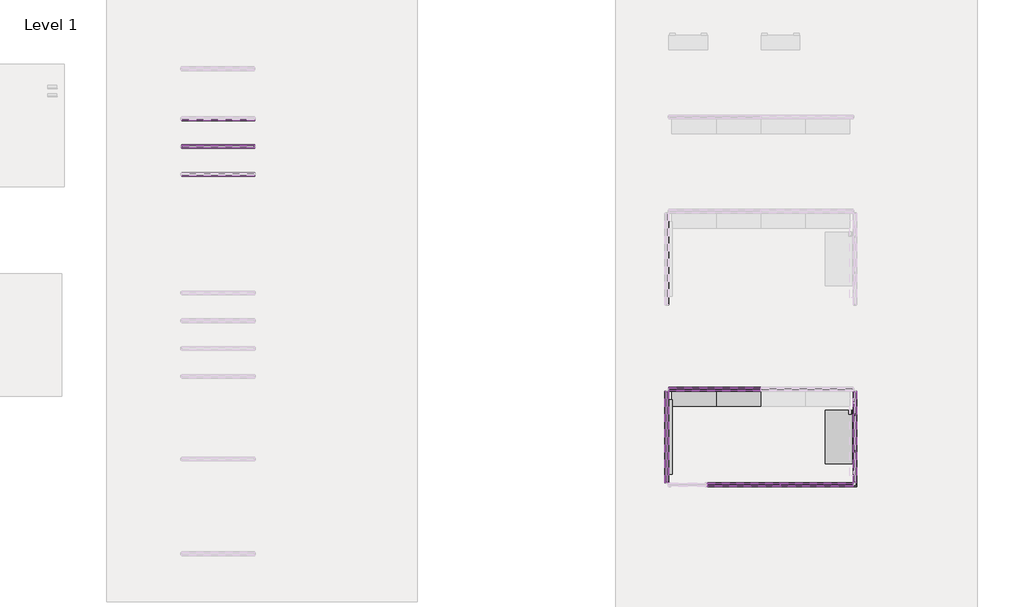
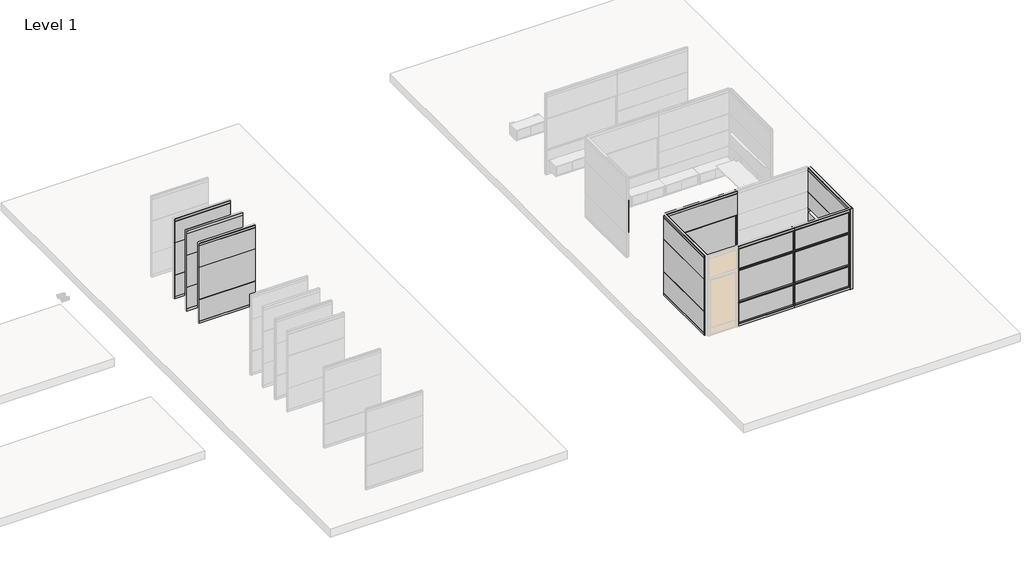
# One storey, part 10 of 13: 102 proxies, 4 furniture elements.
"""IFC4 building model written with IfcOpenShell, lengths in millimetres."""

from ifc_helpers import new_model, si_unit, origin, place, context, project, spatial, transform, mapped, element, save
from components import specialty_equipment_a50fd7a3, fascia_teknion_ceiling_and_base_ffb1_ef166fc6, fascia_teknion_ceiling_and_base_ffb1_7e571673, fascia_teknion_ceiling_and_base_ffb1_18eda79c, fascia_teknion_ceiling_and_base_ffb1_afe21305, fascia_teknion_ceiling_and_base_ffb1_896a0c16, fascia_teknion_ceiling_and_base_ffb1_9837481b, fascia_teknion_ceiling_and_base_ffb1_82e00885, fascia_teknion_ceiling_and_base_ffb1_6d2ad91a, frame_teknion_horizontal_rail_fkk_c7085990, frame_teknion_horizontal_rail_fkk_5c7bcb91, frame_teknion_horizontal_rail_fkk_86cbbdfc, frame_teknion_horizontal_rail_fkk_8a89803d, frame_teknion_horizontal_rail_fkk_60f78dd7, frame_teknion_landscape_vertical_post_b621eeab, glass_fascia_b5f6f7ce, glass_fascia_92d9bb8b, glass_fascia_22911ecb, glass_fascia_a5cf5054, glass_fascia_7f66fccd, glass_fascia_9f460d6d, glass_fascia_9ef64add, level_i_94c8ecd2, level_i_45b542d7, level_i_5a75796b, level_i_b17bdb42, level_i_0fad34de, level_i_c2499e2a, level_i_bottom_886b868d, level_i_top_2ca9f02e, level_ii_4f3a5f4c, level_ii_0c7391c9, level_ii_e725a0b5, level_ii_bottom_2a449907, level_iii_1ffc0a55, level_iii_bffd5232, level_iii_4f8121dc, level_iii_edf6dfbd, level_iii_156669a2, level_iii_9491f67b, whiteboard_56b2b3fd, furniture_abd386d2, aluminum_shelf_4e7f8018, furniture_c8d8c331

model = new_model("IFC4")

# Units and contexts
model_context = context("Model", 3, world=origin())
ifc_project = project(units=[si_unit("LENGTHUNIT", "METRE", prefix="MILLI")], contexts=[model_context])

# Site, building, storey
site = spatial("IfcSite", under=ifc_project)
building = spatial("IfcBuilding", under=site)
storey = spatial("IfcBuildingStorey", under=building, Name="Level 1", Elevation=0.0)

# Proxies
placement = place(None, origin())
specialty_equipment_shape = specialty_equipment_a50fd7a3(model_context)
element("IfcBuildingElementProxy", 1, Name="Connection-Corner-Teknion-Altos-Two_Way_FKCH90 : 90º Connection", ObjectType="Connection-Corner-Teknion-Altos-Two_Way_FKCH90 : 90º Connection", at=placement, inside=storey, context=model_context, shape_type="MappedRepresentation", body=[
    mapped(specialty_equipment_shape, transform((24914.9487093, 5976.6783277, 3.175), x_axis=(0.0, -1.0000000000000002, 0.0), y_axis=(1.0000000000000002, 0.0, 0.0), z_axis=(0.0, 0.0, 1.0))),
])
fascia_teknion_ceiling_and_base_ffb1_shape = fascia_teknion_ceiling_and_base_ffb1_ef166fc6(model_context)
element("IfcBuildingElementProxy", 2, Name="Fascia-Teknion-Ceiling_and_Base : FFB1", ObjectType="Fascia-Teknion-Ceiling_and_Base : FFB1", at=placement, inside=storey, context=model_context, shape_type="MappedRepresentation", body=[
    mapped(fascia_teknion_ceiling_and_base_ffb1_shape, transform((23867.139065, 6007.6663277, 15.875), x_axis=(-1.0, 0.0, 0.0), y_axis=(0.0, -1.0, 0.0), z_axis=(0.0, 0.0, 1.0))),
])
element("IfcBuildingElementProxy", 3, Name="Fascia-Teknion-Ceiling_and_Base : FFB1", ObjectType="Fascia-Teknion-Ceiling_and_Base : FFB1", at=placement, inside=storey, context=model_context, shape_type="MappedRepresentation", body=[
    mapped(fascia_teknion_ceiling_and_base_ffb1_shape, transform((23867.139065, 5926.6403277, 15.875), x_axis=(-1.0, 0.0, 0.0), y_axis=(0.0, -1.0, 0.0), z_axis=(0.0, 0.0, 1.0))),
])
element("IfcBuildingElementProxy", 4, Name="Fascia-Teknion-Ceiling_and_Base : FFB1", ObjectType="Fascia-Teknion-Ceiling_and_Base : FFB1", at=placement, inside=storey, context=model_context, shape_type="MappedRepresentation", body=[
    mapped(fascia_teknion_ceiling_and_base_ffb1_shape, transform((23867.139065, 6007.6663277, 2950.845), x_axis=(-1.0, 0.0, 0.0), y_axis=(0.0, -1.0, 0.0), z_axis=(0.0, 0.0, 1.0))),
])
element("IfcBuildingElementProxy", 5, Name="Fascia-Teknion-Ceiling_and_Base : FFB1", ObjectType="Fascia-Teknion-Ceiling_and_Base : FFB1", at=placement, inside=storey, context=model_context, shape_type="MappedRepresentation", body=[
    mapped(fascia_teknion_ceiling_and_base_ffb1_shape, transform((23867.139065, 5926.6403277, 2950.845), x_axis=(-1.0, 0.0, 0.0), y_axis=(0.0, -1.0, 0.0), z_axis=(0.0, 0.0, 1.0))),
])
fascia_teknion_ceiling_and_base_ffb1_2_shape = fascia_teknion_ceiling_and_base_ffb1_7e571673(model_context)
element("IfcBuildingElementProxy", 6, Name="Fascia-Teknion-Ceiling_and_Base : FFB1", ObjectType="Fascia-Teknion-Ceiling_and_Base : FFB1", at=placement, inside=storey, context=model_context, shape_type="MappedRepresentation", body=[
    mapped(fascia_teknion_ceiling_and_base_ffb1_2_shape, transform((21867.5339869, 6007.6663277, 15.875), x_axis=(-1.0, 0.0, 0.0), y_axis=(0.0, -1.0, 0.0), z_axis=(0.0, 0.0, 1.0))),
])
element("IfcBuildingElementProxy", 7, Name="Fascia-Teknion-Ceiling_and_Base : FFB1", ObjectType="Fascia-Teknion-Ceiling_and_Base : FFB1", at=placement, inside=storey, context=model_context, shape_type="MappedRepresentation", body=[
    mapped(fascia_teknion_ceiling_and_base_ffb1_2_shape, transform((21867.5339869, 5926.6403277, 15.875), x_axis=(-1.0, 0.0, 0.0), y_axis=(0.0, -1.0, 0.0), z_axis=(0.0, 0.0, 1.0))),
])
element("IfcBuildingElementProxy", 8, Name="Fascia-Teknion-Ceiling_and_Base : FFB1", ObjectType="Fascia-Teknion-Ceiling_and_Base : FFB1", at=placement, inside=storey, context=model_context, shape_type="MappedRepresentation", body=[
    mapped(fascia_teknion_ceiling_and_base_ffb1_2_shape, transform((21867.5339869, 6007.6663277, 2950.845), x_axis=(-1.0, 0.0, 0.0), y_axis=(0.0, -1.0, 0.0), z_axis=(0.0, 0.0, 1.0))),
])
element("IfcBuildingElementProxy", 9, Name="Fascia-Teknion-Ceiling_and_Base : FFB1", ObjectType="Fascia-Teknion-Ceiling_and_Base : FFB1", at=placement, inside=storey, context=model_context, shape_type="MappedRepresentation", body=[
    mapped(fascia_teknion_ceiling_and_base_ffb1_2_shape, transform((21867.5339869, 5926.6403277, 2950.845), x_axis=(-1.0, 0.0, 0.0), y_axis=(0.0, -1.0, 0.0), z_axis=(0.0, 0.0, 1.0))),
])
fascia_teknion_ceiling_and_base_ffb1_3_shape = fascia_teknion_ceiling_and_base_ffb1_18eda79c(model_context)
element("IfcBuildingElementProxy", 10, Name="Fascia-Teknion-Ceiling_and_Base : FFB1", ObjectType="Fascia-Teknion-Ceiling_and_Base : FFB1", at=placement, inside=storey, context=model_context, shape_type="MappedRepresentation", body=[
    mapped(fascia_teknion_ceiling_and_base_ffb1_3_shape, transform((7469.8447863, 15970.4806297, 15.875), x_axis=(1.0, 0.0, 0.0), y_axis=(0.0, 1.0, 0.0), z_axis=(0.0, 0.0, 1.0))),
])
element("IfcBuildingElementProxy", 11, Name="Fascia-Teknion-Ceiling_and_Base : FFB1", ObjectType="Fascia-Teknion-Ceiling_and_Base : FFB1", at=placement, inside=storey, context=model_context, shape_type="MappedRepresentation", body=[
    mapped(fascia_teknion_ceiling_and_base_ffb1_3_shape, transform((7469.8447863, 15208.4806297, 15.875), x_axis=(1.0, 0.0, 0.0), y_axis=(0.0, 1.0, 0.0), z_axis=(0.0, 0.0, 1.0))),
])
element("IfcBuildingElementProxy", 12, Name="Fascia-Teknion-Ceiling_and_Base : FFB1", ObjectType="Fascia-Teknion-Ceiling_and_Base : FFB1", at=placement, inside=storey, context=model_context, shape_type="MappedRepresentation", body=[
    mapped(fascia_teknion_ceiling_and_base_ffb1_3_shape, transform((7469.8447863, 14446.4806297, 15.875), x_axis=(1.0, 0.0, 0.0), y_axis=(0.0, 1.0, 0.0), z_axis=(0.0, 0.0, 1.0))),
])
fascia_teknion_ceiling_and_base_ffb1_4_shape = fascia_teknion_ceiling_and_base_ffb1_afe21305(model_context)
element("IfcBuildingElementProxy", 13, Name="Fascia-Teknion-Ceiling_and_Base : FFB1", ObjectType="Fascia-Teknion-Ceiling_and_Base : FFB1", at=placement, inside=storey, context=model_context, shape_type="MappedRepresentation", body=[
    mapped(fascia_teknion_ceiling_and_base_ffb1_4_shape, transform((7469.8447863, 15270.4566297, 15.875), x_axis=(1.0, 0.0, 0.0), y_axis=(0.0, 1.0, 0.0), z_axis=(0.0, 0.0, 1.0))),
])
element("IfcBuildingElementProxy", 14, Name="Fascia-Teknion-Ceiling_and_Base : FFB1", ObjectType="Fascia-Teknion-Ceiling_and_Base : FFB1", at=placement, inside=storey, context=model_context, shape_type="MappedRepresentation", body=[
    mapped(fascia_teknion_ceiling_and_base_ffb1_4_shape, transform((7469.8447863, 14508.4566297, 15.875), x_axis=(1.0, 0.0, 0.0), y_axis=(0.0, 1.0, 0.0), z_axis=(0.0, 0.0, 1.0))),
])
fascia_teknion_ceiling_and_base_ffb1_5_shape = fascia_teknion_ceiling_and_base_ffb1_896a0c16(model_context)
element("IfcBuildingElementProxy", 15, Name="Fascia-Teknion-Ceiling_and_Base : FFB1", ObjectType="Fascia-Teknion-Ceiling_and_Base : FFB1", at=placement, inside=storey, context=model_context, shape_type="MappedRepresentation", body=[
    mapped(fascia_teknion_ceiling_and_base_ffb1_5_shape, transform((21074.4289087, 8622.6866412, 15.875), x_axis=(1.0, 0.0, 0.0), y_axis=(0.0, 1.0, 0.0), z_axis=(0.0, 0.0, 1.0))),
])
fascia_teknion_ceiling_and_base_ffb1_6_shape = fascia_teknion_ceiling_and_base_ffb1_9837481b(model_context)
element("IfcBuildingElementProxy", 16, Name="Fascia-Teknion-Ceiling_and_Base : FFB1", ObjectType="Fascia-Teknion-Ceiling_and_Base : FFB1", at=placement, inside=storey, context=model_context, shape_type="MappedRepresentation", body=[
    mapped(fascia_teknion_ceiling_and_base_ffb1_6_shape, transform((21074.4289087, 8560.7106412, 15.875), x_axis=(1.0, 0.0, 0.0), y_axis=(0.0, 1.0, 0.0), z_axis=(0.0, 0.0, 1.0))),
])
fascia_teknion_ceiling_and_base_ffb1_7_shape = fascia_teknion_ceiling_and_base_ffb1_82e00885(model_context)
element("IfcBuildingElementProxy", 17, Name="Fascia-Teknion-Ceiling_and_Base : FFB1", ObjectType="Fascia-Teknion-Ceiling_and_Base : FFB1", at=placement, inside=storey, context=model_context, shape_type="MappedRepresentation", body=[
    mapped(fascia_teknion_ceiling_and_base_ffb1_7_shape, transform((19728.9373827, 7284.1986407, 15.875), x_axis=(0.0, 1.0, 0.0), y_axis=(-1.0, 0.0, 0.0), z_axis=(0.0, 0.0, 1.0))),
])
element("IfcBuildingElementProxy", 18, Name="Fascia-Teknion-Ceiling_and_Base : FFB1", ObjectType="Fascia-Teknion-Ceiling_and_Base : FFB1", at=placement, inside=storey, context=model_context, shape_type="MappedRepresentation", body=[
    mapped(fascia_teknion_ceiling_and_base_ffb1_7_shape, transform((24945.930591, 7284.1986407, 15.875), x_axis=(0.0, -1.0, 0.0), y_axis=(1.0, 0.0, 0.0), z_axis=(0.0, 0.0, 1.0))),
])
fascia_teknion_ceiling_and_base_ffb1_8_shape = fascia_teknion_ceiling_and_base_ffb1_6d2ad91a(model_context)
element("IfcBuildingElementProxy", 19, Name="Fascia-Teknion-Ceiling_and_Base : FFB1", ObjectType="Fascia-Teknion-Ceiling_and_Base : FFB1", at=placement, inside=storey, context=model_context, shape_type="MappedRepresentation", body=[
    mapped(fascia_teknion_ceiling_and_base_ffb1_8_shape, transform((24883.954591, 7284.1986407, 15.875), x_axis=(0.0, -1.0, 0.0), y_axis=(1.0, 0.0, 0.0), z_axis=(0.0, 0.0, 1.0))),
])
element("IfcBuildingElementProxy", 20, Name="Fascia-Teknion-Ceiling_and_Base : FFB1", ObjectType="Fascia-Teknion-Ceiling_and_Base : FFB1", at=placement, inside=storey, context=model_context, shape_type="MappedRepresentation", body=[
    mapped(fascia_teknion_ceiling_and_base_ffb1_8_shape, transform((19790.9133827, 7284.1986407, 15.875), x_axis=(0.0, 1.0, 0.0), y_axis=(-1.0, 0.0, 0.0), z_axis=(0.0, 0.0, 1.0))),
])
element("IfcBuildingElementProxy", 21, Name="Fascia-Teknion-Ceiling_and_Base : FFC", ObjectType="Fascia-Teknion-Ceiling_and_Base : FFC", at=placement, inside=storey, context=model_context, shape_type="MappedRepresentation", body=[
    mapped(fascia_teknion_ceiling_and_base_ffb1_4_shape, transform((7469.8447863, 15270.4566297, 2950.845), x_axis=(1.0, 0.0, 0.0), y_axis=(0.0, 1.0, 0.0), z_axis=(0.0, 0.0, 1.0))),
])
element("IfcBuildingElementProxy", 22, Name="Fascia-Teknion-Ceiling_and_Base : FFC", ObjectType="Fascia-Teknion-Ceiling_and_Base : FFC", at=placement, inside=storey, context=model_context, shape_type="MappedRepresentation", body=[
    mapped(fascia_teknion_ceiling_and_base_ffb1_3_shape, transform((7469.8447863, 15970.4806297, 2950.845), x_axis=(1.0, 0.0, 0.0), y_axis=(0.0, 1.0, 0.0), z_axis=(0.0, 0.0, 1.0))),
])
element("IfcBuildingElementProxy", 23, Name="Fascia-Teknion-Ceiling_and_Base : FFC", ObjectType="Fascia-Teknion-Ceiling_and_Base : FFC", at=placement, inside=storey, context=model_context, shape_type="MappedRepresentation", body=[
    mapped(fascia_teknion_ceiling_and_base_ffb1_3_shape, transform((7469.8447863, 15208.4806297, 2950.845), x_axis=(1.0, 0.0, 0.0), y_axis=(0.0, 1.0, 0.0), z_axis=(0.0, 0.0, 1.0))),
])
element("IfcBuildingElementProxy", 24, Name="Fascia-Teknion-Ceiling_and_Base : FFC", ObjectType="Fascia-Teknion-Ceiling_and_Base : FFC", at=placement, inside=storey, context=model_context, shape_type="MappedRepresentation", body=[
    mapped(fascia_teknion_ceiling_and_base_ffb1_3_shape, transform((7469.8447863, 14446.4806297, 2950.845), x_axis=(1.0, 0.0, 0.0), y_axis=(0.0, 1.0, 0.0), z_axis=(0.0, 0.0, 1.0))),
])
element("IfcBuildingElementProxy", 25, Name="Fascia-Teknion-Ceiling_and_Base : FFC", ObjectType="Fascia-Teknion-Ceiling_and_Base : FFC", at=placement, inside=storey, context=model_context, shape_type="MappedRepresentation", body=[
    mapped(fascia_teknion_ceiling_and_base_ffb1_5_shape, transform((21074.4289087, 8622.6866412, 2950.845), x_axis=(1.0, 0.0, 0.0), y_axis=(0.0, 1.0, 0.0), z_axis=(0.0, 0.0, 1.0))),
])
element("IfcBuildingElementProxy", 26, Name="Fascia-Teknion-Ceiling_and_Base : FFC", ObjectType="Fascia-Teknion-Ceiling_and_Base : FFC", at=placement, inside=storey, context=model_context, shape_type="MappedRepresentation", body=[
    mapped(fascia_teknion_ceiling_and_base_ffb1_6_shape, transform((21074.4289087, 8560.7106412, 2950.845), x_axis=(1.0, 0.0, 0.0), y_axis=(0.0, 1.0, 0.0), z_axis=(0.0, 0.0, 1.0))),
])
element("IfcBuildingElementProxy", 27, Name="Fascia-Teknion-Ceiling_and_Base : FFC", ObjectType="Fascia-Teknion-Ceiling_and_Base : FFC", at=placement, inside=storey, context=model_context, shape_type="MappedRepresentation", body=[
    mapped(fascia_teknion_ceiling_and_base_ffb1_7_shape, transform((19728.9373827, 7284.1986407, 2950.845), x_axis=(0.0, 1.0, 0.0), y_axis=(-1.0, 0.0, 0.0), z_axis=(0.0, 0.0, 1.0))),
])
element("IfcBuildingElementProxy", 28, Name="Fascia-Teknion-Ceiling_and_Base : FFC", ObjectType="Fascia-Teknion-Ceiling_and_Base : FFC", at=placement, inside=storey, context=model_context, shape_type="MappedRepresentation", body=[
    mapped(fascia_teknion_ceiling_and_base_ffb1_7_shape, transform((24945.930591, 7284.1986407, 2950.845), x_axis=(0.0, -1.0, 0.0), y_axis=(1.0, 0.0, 0.0), z_axis=(0.0, 0.0, 1.0))),
])
element("IfcBuildingElementProxy", 29, Name="Fascia-Teknion-Ceiling_and_Base : FFC", ObjectType="Fascia-Teknion-Ceiling_and_Base : FFC", at=placement, inside=storey, context=model_context, shape_type="MappedRepresentation", body=[
    mapped(fascia_teknion_ceiling_and_base_ffb1_8_shape, transform((19790.9133827, 7284.1986407, 2950.845), x_axis=(0.0, 1.0, 0.0), y_axis=(-1.0, 0.0, 0.0), z_axis=(0.0, 0.0, 1.0))),
])
element("IfcBuildingElementProxy", 30, Name="Fascia-Teknion-Ceiling_and_Base : FFC", ObjectType="Fascia-Teknion-Ceiling_and_Base : FFC", at=placement, inside=storey, context=model_context, shape_type="MappedRepresentation", body=[
    mapped(fascia_teknion_ceiling_and_base_ffb1_8_shape, transform((24883.954591, 7284.1986407, 2950.845), x_axis=(0.0, -1.0, 0.0), y_axis=(1.0, 0.0, 0.0), z_axis=(0.0, 0.0, 1.0))),
])
frame_teknion_horizontal_rail_fkk_shape = frame_teknion_horizontal_rail_fkk_c7085990(model_context)
element("IfcBuildingElementProxy", 31, Name="Frame-Teknion-Horizontal_Rail : FKK", ObjectType="Frame-Teknion-Horizontal_Rail : FKK", at=placement, inside=storey, context=model_context, shape_type="MappedRepresentation", body=[
    mapped(frame_teknion_horizontal_rail_fkk_shape, transform((23867.139065, 5976.6783277, 100.4514438), x_axis=(-1.0, 0.0, 0.0), y_axis=(0.0, -1.0, 0.0), z_axis=(0.0, 0.0, 1.0))),
])
element("IfcBuildingElementProxy", 32, Name="Frame-Teknion-Horizontal_Rail : FKK", ObjectType="Frame-Teknion-Horizontal_Rail : FKK", at=placement, inside=storey, context=model_context, shape_type="MappedRepresentation", body=[
    mapped(frame_teknion_horizontal_rail_fkk_shape, transform((23867.139065, 5976.6783277, 2947.5374437), x_axis=(-1.0, 0.0, 0.0), y_axis=(0.0, -1.0, 0.0), z_axis=(0.0, 0.0, 1.0))),
])
frame_teknion_horizontal_rail_fkk_2_shape = frame_teknion_horizontal_rail_fkk_5c7bcb91(model_context)
element("IfcBuildingElementProxy", 33, Name="Frame-Teknion-Horizontal_Rail : FKK", ObjectType="Frame-Teknion-Horizontal_Rail : FKK", at=placement, inside=storey, context=model_context, shape_type="MappedRepresentation", body=[
    mapped(frame_teknion_horizontal_rail_fkk_2_shape, transform((21867.5339869, 5976.6783277, 100.4514438), x_axis=(-1.0, 0.0, 0.0), y_axis=(0.0, -1.0, 0.0), z_axis=(0.0, 0.0, 1.0))),
])
element("IfcBuildingElementProxy", 34, Name="Frame-Teknion-Horizontal_Rail : FKK", ObjectType="Frame-Teknion-Horizontal_Rail : FKK", at=placement, inside=storey, context=model_context, shape_type="MappedRepresentation", body=[
    mapped(frame_teknion_horizontal_rail_fkk_2_shape, transform((21867.5339869, 5976.6783277, 2947.5374437), x_axis=(-1.0, 0.0, 0.0), y_axis=(0.0, -1.0, 0.0), z_axis=(0.0, 0.0, 1.0))),
])
frame_teknion_horizontal_rail_fkk_3_shape = frame_teknion_horizontal_rail_fkk_86cbbdfc(model_context)
element("IfcBuildingElementProxy", 35, Name="Frame-Teknion-Horizontal_Rail : FKK", ObjectType="Frame-Teknion-Horizontal_Rail : FKK", at=placement, inside=storey, context=model_context, shape_type="MappedRepresentation", body=[
    mapped(frame_teknion_horizontal_rail_fkk_3_shape, transform((7469.8447863, 15239.4686297, 100.4514438), x_axis=(1.0, 0.0, 0.0), y_axis=(0.0, 1.0, 0.0), z_axis=(0.0, 0.0, 1.0))),
])
element("IfcBuildingElementProxy", 36, Name="Frame-Teknion-Horizontal_Rail : FKK", ObjectType="Frame-Teknion-Horizontal_Rail : FKK", at=placement, inside=storey, context=model_context, shape_type="MappedRepresentation", body=[
    mapped(frame_teknion_horizontal_rail_fkk_3_shape, transform((7469.8447863, 15239.4686297, 2947.5374437), x_axis=(1.0, 0.0, 0.0), y_axis=(0.0, 1.0, 0.0), z_axis=(0.0, 0.0, 1.0))),
])
frame_teknion_horizontal_rail_fkk_4_shape = frame_teknion_horizontal_rail_fkk_8a89803d(model_context)
element("IfcBuildingElementProxy", 37, Name="Frame-Teknion-Horizontal_Rail : FKK", ObjectType="Frame-Teknion-Horizontal_Rail : FKK", at=placement, inside=storey, context=model_context, shape_type="MappedRepresentation", body=[
    mapped(frame_teknion_horizontal_rail_fkk_4_shape, transform((21074.4289087, 8591.6986412, 100.4514438), x_axis=(1.0, 0.0, 0.0), y_axis=(0.0, 1.0, 0.0), z_axis=(0.0, 0.0, 1.0))),
])
element("IfcBuildingElementProxy", 38, Name="Frame-Teknion-Horizontal_Rail : FKK", ObjectType="Frame-Teknion-Horizontal_Rail : FKK", at=placement, inside=storey, context=model_context, shape_type="MappedRepresentation", body=[
    mapped(frame_teknion_horizontal_rail_fkk_4_shape, transform((21074.4289087, 8591.6986412, 2947.5374437), x_axis=(1.0, 0.0, 0.0), y_axis=(0.0, 1.0, 0.0), z_axis=(0.0, 0.0, 1.0))),
])
frame_teknion_horizontal_rail_fkk_5_shape = frame_teknion_horizontal_rail_fkk_60f78dd7(model_context)
element("IfcBuildingElementProxy", 39, Name="Frame-Teknion-Horizontal_Rail : FKK", ObjectType="Frame-Teknion-Horizontal_Rail : FKK", at=placement, inside=storey, context=model_context, shape_type="MappedRepresentation", body=[
    mapped(frame_teknion_horizontal_rail_fkk_5_shape, transform((19759.9253827, 7284.1986407, 100.4514438), x_axis=(0.0, 1.0, 0.0), y_axis=(-1.0, 0.0, 0.0), z_axis=(0.0, 0.0, 1.0))),
])
element("IfcBuildingElementProxy", 40, Name="Frame-Teknion-Horizontal_Rail : FKK", ObjectType="Frame-Teknion-Horizontal_Rail : FKK", at=placement, inside=storey, context=model_context, shape_type="MappedRepresentation", body=[
    mapped(frame_teknion_horizontal_rail_fkk_5_shape, transform((19759.9253827, 7284.1986407, 2947.5374437), x_axis=(0.0, 1.0, 0.0), y_axis=(-1.0, 0.0, 0.0), z_axis=(0.0, 0.0, 1.0))),
])
element("IfcBuildingElementProxy", 41, Name="Frame-Teknion-Horizontal_Rail : FKK", ObjectType="Frame-Teknion-Horizontal_Rail : FKK", at=placement, inside=storey, context=model_context, shape_type="MappedRepresentation", body=[
    mapped(frame_teknion_horizontal_rail_fkk_5_shape, transform((24914.942591, 7284.1986407, 100.4514438), x_axis=(0.0, -1.0, 0.0), y_axis=(1.0, 0.0, 0.0), z_axis=(0.0, 0.0, 1.0))),
])
element("IfcBuildingElementProxy", 42, Name="Frame-Teknion-Horizontal_Rail : FKK", ObjectType="Frame-Teknion-Horizontal_Rail : FKK", at=placement, inside=storey, context=model_context, shape_type="MappedRepresentation", body=[
    mapped(frame_teknion_horizontal_rail_fkk_5_shape, transform((24914.942591, 7284.1986407, 2947.5374437), x_axis=(0.0, -1.0, 0.0), y_axis=(1.0, 0.0, 0.0), z_axis=(0.0, 0.0, 1.0))),
])
element("IfcBuildingElementProxy", 43, Name="Frame-Teknion-Landscape_Horizontal_Rail : FLKH", ObjectType="Frame-Teknion-Landscape_Horizontal_Rail : FLKH", at=placement, inside=storey, context=model_context, shape_type="MappedRepresentation", body=[
    mapped(frame_teknion_horizontal_rail_fkk_shape, transform((23867.139065, 5976.6783277, 917.575), x_axis=(-1.0, 0.0, 0.0), y_axis=(0.0, -1.0, 0.0), z_axis=(0.0, 0.0, 1.0))),
])
element("IfcBuildingElementProxy", 44, Name="Frame-Teknion-Landscape_Horizontal_Rail : FLKH", ObjectType="Frame-Teknion-Landscape_Horizontal_Rail : FLKH", at=placement, inside=storey, context=model_context, shape_type="MappedRepresentation", body=[
    mapped(frame_teknion_horizontal_rail_fkk_shape, transform((23867.139065, 5976.6783277, 2136.775), x_axis=(-1.0, 0.0, 0.0), y_axis=(0.0, -1.0, 0.0), z_axis=(0.0, 0.0, 1.0))),
])
element("IfcBuildingElementProxy", 45, Name="Frame-Teknion-Landscape_Horizontal_Rail : FLKH", ObjectType="Frame-Teknion-Landscape_Horizontal_Rail : FLKH", at=placement, inside=storey, context=model_context, shape_type="MappedRepresentation", body=[
    mapped(frame_teknion_horizontal_rail_fkk_2_shape, transform((21867.5339869, 5976.6783277, 917.575), x_axis=(-1.0, 0.0, 0.0), y_axis=(0.0, -1.0, 0.0), z_axis=(0.0, 0.0, 1.0))),
])
element("IfcBuildingElementProxy", 46, Name="Frame-Teknion-Landscape_Horizontal_Rail : FLKH", ObjectType="Frame-Teknion-Landscape_Horizontal_Rail : FLKH", at=placement, inside=storey, context=model_context, shape_type="MappedRepresentation", body=[
    mapped(frame_teknion_horizontal_rail_fkk_2_shape, transform((21867.5339869, 5976.6783277, 2136.775), x_axis=(-1.0, 0.0, 0.0), y_axis=(0.0, -1.0, 0.0), z_axis=(0.0, 0.0, 1.0))),
])
element("IfcBuildingElementProxy", 47, Name="Frame-Teknion-Landscape_Horizontal_Rail : FLKH", ObjectType="Frame-Teknion-Landscape_Horizontal_Rail : FLKH", at=placement, inside=storey, context=model_context, shape_type="MappedRepresentation", body=[
    mapped(frame_teknion_horizontal_rail_fkk_3_shape, transform((7469.8447863, 15239.4686297, 917.575), x_axis=(1.0, 0.0, 0.0), y_axis=(0.0, 1.0, 0.0), z_axis=(0.0, 0.0, 1.0))),
])
element("IfcBuildingElementProxy", 48, Name="Frame-Teknion-Landscape_Horizontal_Rail : FLKH", ObjectType="Frame-Teknion-Landscape_Horizontal_Rail : FLKH", at=placement, inside=storey, context=model_context, shape_type="MappedRepresentation", body=[
    mapped(frame_teknion_horizontal_rail_fkk_3_shape, transform((7469.8447863, 15239.4686297, 2136.775), x_axis=(1.0, 0.0, 0.0), y_axis=(0.0, 1.0, 0.0), z_axis=(0.0, 0.0, 1.0))),
])
element("IfcBuildingElementProxy", 49, Name="Frame-Teknion-Landscape_Horizontal_Rail : FLKH", ObjectType="Frame-Teknion-Landscape_Horizontal_Rail : FLKH", at=placement, inside=storey, context=model_context, shape_type="MappedRepresentation", body=[
    mapped(frame_teknion_horizontal_rail_fkk_4_shape, transform((21074.4289087, 8591.6986412, 917.575), x_axis=(1.0, 0.0, 0.0), y_axis=(0.0, 1.0, 0.0), z_axis=(0.0, 0.0, 1.0))),
])
element("IfcBuildingElementProxy", 50, Name="Frame-Teknion-Landscape_Horizontal_Rail : FLKH", ObjectType="Frame-Teknion-Landscape_Horizontal_Rail : FLKH", at=placement, inside=storey, context=model_context, shape_type="MappedRepresentation", body=[
    mapped(frame_teknion_horizontal_rail_fkk_4_shape, transform((21074.4289087, 8591.6986412, 2136.775), x_axis=(1.0, 0.0, 0.0), y_axis=(0.0, 1.0, 0.0), z_axis=(0.0, 0.0, 1.0))),
])
element("IfcBuildingElementProxy", 51, Name="Frame-Teknion-Landscape_Horizontal_Rail : FLKH", ObjectType="Frame-Teknion-Landscape_Horizontal_Rail : FLKH", at=placement, inside=storey, context=model_context, shape_type="MappedRepresentation", body=[
    mapped(frame_teknion_horizontal_rail_fkk_4_shape, transform((23600.439065, 8591.6986412, 917.575), x_axis=(1.0, 0.0, 0.0), y_axis=(0.0, 1.0, 0.0), z_axis=(0.0, 0.0, 1.0))),
])
element("IfcBuildingElementProxy", 52, Name="Frame-Teknion-Landscape_Horizontal_Rail : FLKH", ObjectType="Frame-Teknion-Landscape_Horizontal_Rail : FLKH", at=placement, inside=storey, context=model_context, shape_type="MappedRepresentation", body=[
    mapped(frame_teknion_horizontal_rail_fkk_4_shape, transform((23600.439065, 8591.6986412, 2136.775), x_axis=(1.0, 0.0, 0.0), y_axis=(0.0, 1.0, 0.0), z_axis=(0.0, 0.0, 1.0))),
])
element("IfcBuildingElementProxy", 53, Name="Frame-Teknion-Landscape_Horizontal_Rail : FLKH", ObjectType="Frame-Teknion-Landscape_Horizontal_Rail : FLKH", at=placement, inside=storey, context=model_context, shape_type="MappedRepresentation", body=[
    mapped(frame_teknion_horizontal_rail_fkk_4_shape, transform((21074.4289087, 8591.6986412, 536.575), x_axis=(1.0, 0.0, 0.0), y_axis=(0.0, 1.0, 0.0), z_axis=(0.0, 0.0, 1.0))),
])
element("IfcBuildingElementProxy", 54, Name="Frame-Teknion-Landscape_Horizontal_Rail : FLKH", ObjectType="Frame-Teknion-Landscape_Horizontal_Rail : FLKH", at=placement, inside=storey, context=model_context, shape_type="MappedRepresentation", body=[
    mapped(frame_teknion_horizontal_rail_fkk_5_shape, transform((19759.9253827, 7284.1986407, 917.575), x_axis=(0.0, 1.0, 0.0), y_axis=(-1.0, 0.0, 0.0), z_axis=(0.0, 0.0, 1.0))),
])
element("IfcBuildingElementProxy", 55, Name="Frame-Teknion-Landscape_Horizontal_Rail : FLKH", ObjectType="Frame-Teknion-Landscape_Horizontal_Rail : FLKH", at=placement, inside=storey, context=model_context, shape_type="MappedRepresentation", body=[
    mapped(frame_teknion_horizontal_rail_fkk_5_shape, transform((19759.9253827, 7284.1986407, 2136.775), x_axis=(0.0, 1.0, 0.0), y_axis=(-1.0, 0.0, 0.0), z_axis=(0.0, 0.0, 1.0))),
])
element("IfcBuildingElementProxy", 56, Name="Frame-Teknion-Landscape_Horizontal_Rail : FLKH", ObjectType="Frame-Teknion-Landscape_Horizontal_Rail : FLKH", at=placement, inside=storey, context=model_context, shape_type="MappedRepresentation", body=[
    mapped(frame_teknion_horizontal_rail_fkk_5_shape, transform((24914.942591, 7284.1986407, 917.575), x_axis=(0.0, -1.0, 0.0), y_axis=(1.0, 0.0, 0.0), z_axis=(0.0, 0.0, 1.0))),
])
element("IfcBuildingElementProxy", 57, Name="Frame-Teknion-Landscape_Horizontal_Rail : FLKH", ObjectType="Frame-Teknion-Landscape_Horizontal_Rail : FLKH", at=placement, inside=storey, context=model_context, shape_type="MappedRepresentation", body=[
    mapped(frame_teknion_horizontal_rail_fkk_5_shape, transform((24914.942591, 7284.1986407, 2136.775), x_axis=(0.0, -1.0, 0.0), y_axis=(1.0, 0.0, 0.0), z_axis=(0.0, 0.0, 1.0))),
])
element("IfcBuildingElementProxy", 58, Name="Frame-Teknion-Landscape_Horizontal_Rail : FLKH", ObjectType="Frame-Teknion-Landscape_Horizontal_Rail : FLKH", at=placement, inside=storey, context=model_context, shape_type="MappedRepresentation", body=[
    mapped(frame_teknion_horizontal_rail_fkk_5_shape, transform((24914.942591, 7284.1986407, 1527.175), x_axis=(0.0, -1.0, 0.0), y_axis=(1.0, 0.0, 0.0), z_axis=(0.0, 0.0, 1.0))),
])
frame_teknion_landscape_vertical_post_shape = frame_teknion_landscape_vertical_post_b621eeab(model_context)
element("IfcBuildingElementProxy", 59, Name="Frame-Teknion-Landscape_Vertical_Post : FLKV", ObjectType="Frame-Teknion-Landscape_Vertical_Post : FLKV", at=placement, inside=storey, context=model_context, shape_type="MappedRepresentation", body=[
    mapped(frame_teknion_landscape_vertical_post_shape, transform((24914.942591, 7895.3734407, 15.875), x_axis=(0.0, 1.0000000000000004, 0.0), y_axis=(-1.0000000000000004, 0.0, 0.0), z_axis=(0.0, 0.0, 1.0))),
])
element("IfcBuildingElementProxy", 60, Name="Frame-Teknion-Landscape_Vertical_Post : FLKV", ObjectType="Frame-Teknion-Landscape_Vertical_Post : FLKV", at=placement, inside=storey, context=model_context, shape_type="MappedRepresentation", body=[
    mapped(frame_teknion_landscape_vertical_post_shape, transform((24914.942591, 7666.7734407, 15.875), x_axis=(0.0, 1.0000000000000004, 0.0), y_axis=(-1.0000000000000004, 0.0, 0.0), z_axis=(0.0, 0.0, 1.0))),
])
element("IfcBuildingElementProxy", 61, Name="Frame-Teknion-Landscape_Vertical_Post : FLKV", ObjectType="Frame-Teknion-Landscape_Vertical_Post : FLKV", at=placement, inside=storey, context=model_context, shape_type="MappedRepresentation", body=[
    mapped(frame_teknion_landscape_vertical_post_shape, transform((24914.942591, 6901.6238407, 15.875), x_axis=(0.0, 1.0000000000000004, 0.0), y_axis=(-1.0000000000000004, 0.0, 0.0), z_axis=(0.0, 0.0, 1.0))),
])
element("IfcBuildingElementProxy", 62, Name="Frame-Teknion-Landscape_Vertical_Post : FLKV", ObjectType="Frame-Teknion-Landscape_Vertical_Post : FLKV", at=placement, inside=storey, context=model_context, shape_type="MappedRepresentation", body=[
    mapped(frame_teknion_landscape_vertical_post_shape, transform((24914.942591, 6673.0238407, 15.875), x_axis=(0.0, 1.0000000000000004, 0.0), y_axis=(-1.0000000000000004, 0.0, 0.0), z_axis=(0.0, 0.0, 1.0))),
])
glass_fascia_shape = glass_fascia_b5f6f7ce(model_context)
element("IfcBuildingElementProxy", 63, Name="Panel-Fascia-Teknion-Altos-Glass : Glass Fascia", ObjectType="Panel-Fascia-Teknion-Altos-Glass : Glass Fascia", at=placement, inside=storey, context=model_context, shape_type="MappedRepresentation", body=[
    mapped(glass_fascia_shape, transform((21074.4289087, 8591.7165006, 917.575), x_axis=(1.0, 0.0, 0.0), y_axis=(0.0, 1.0, 0.0), z_axis=(0.0, 0.0, 1.0))),
])
glass_fascia_2_shape = glass_fascia_92d9bb8b(model_context)
element("IfcBuildingElementProxy", 64, Name="Panel-Fascia-Teknion-Altos-Glass : Glass Fascia", ObjectType="Panel-Fascia-Teknion-Altos-Glass : Glass Fascia", at=placement, inside=storey, context=model_context, shape_type="MappedRepresentation", body=[
    mapped(glass_fascia_2_shape, transform((23867.139065, 5976.6604683, 2136.775), x_axis=(-1.0, 0.0, 0.0), y_axis=(0.0, -1.0, 0.0), z_axis=(0.0, 0.0, 1.0))),
])
glass_fascia_3_shape = glass_fascia_22911ecb(model_context)
element("IfcBuildingElementProxy", 65, Name="Panel-Fascia-Teknion-Altos-Glass : Glass Fascia", ObjectType="Panel-Fascia-Teknion-Altos-Glass : Glass Fascia", at=placement, inside=storey, context=model_context, shape_type="MappedRepresentation", body=[
    mapped(glass_fascia_3_shape, transform((23867.139065, 5976.6604683, 917.575), x_axis=(-1.0, 0.0, 0.0), y_axis=(0.0, -1.0, 0.0), z_axis=(0.0, 0.0, 1.0))),
])
glass_fascia_4_shape = glass_fascia_a5cf5054(model_context)
element("IfcBuildingElementProxy", 66, Name="Panel-Fascia-Teknion-Altos-Glass : Glass Fascia", ObjectType="Panel-Fascia-Teknion-Altos-Glass : Glass Fascia", at=placement, inside=storey, context=model_context, shape_type="MappedRepresentation", body=[
    mapped(glass_fascia_4_shape, transform((23867.139065, 5976.6604683, 100.457), x_axis=(-1.0, 0.0, 0.0), y_axis=(0.0, -1.0, 0.0), z_axis=(0.0, 0.0, 1.0))),
])
glass_fascia_5_shape = glass_fascia_7f66fccd(model_context)
element("IfcBuildingElementProxy", 67, Name="Panel-Fascia-Teknion-Altos-Glass : Glass Fascia", ObjectType="Panel-Fascia-Teknion-Altos-Glass : Glass Fascia", at=placement, inside=storey, context=model_context, shape_type="MappedRepresentation", body=[
    mapped(glass_fascia_5_shape, transform((21867.5339869, 5976.6604683, 2136.775), x_axis=(-1.0, 0.0, 0.0), y_axis=(0.0, -1.0, 0.0), z_axis=(0.0, 0.0, 1.0))),
])
glass_fascia_6_shape = glass_fascia_9f460d6d(model_context)
element("IfcBuildingElementProxy", 68, Name="Panel-Fascia-Teknion-Altos-Glass : Glass Fascia", ObjectType="Panel-Fascia-Teknion-Altos-Glass : Glass Fascia", at=placement, inside=storey, context=model_context, shape_type="MappedRepresentation", body=[
    mapped(glass_fascia_6_shape, transform((21867.5339869, 5976.6604683, 917.575), x_axis=(-1.0, 0.0, 0.0), y_axis=(0.0, -1.0, 0.0), z_axis=(0.0, 0.0, 1.0))),
])
glass_fascia_7_shape = glass_fascia_9ef64add(model_context)
element("IfcBuildingElementProxy", 69, Name="Panel-Fascia-Teknion-Altos-Glass : Glass Fascia", ObjectType="Panel-Fascia-Teknion-Altos-Glass : Glass Fascia", at=placement, inside=storey, context=model_context, shape_type="MappedRepresentation", body=[
    mapped(glass_fascia_7_shape, transform((21867.5339869, 5976.6604683, 100.457), x_axis=(-1.0, 0.0, 0.0), y_axis=(0.0, -1.0, 0.0), z_axis=(0.0, 0.0, 1.0))),
])
level_i_shape = level_i_94c8ecd2(model_context)
element("IfcBuildingElementProxy", 70, Name="Panel-Fascia-Teknion-Altos-Landscape_Desk : Level I", ObjectType="Panel-Fascia-Teknion-Altos-Landscape_Desk : Level I", at=placement, inside=storey, context=model_context, shape_type="MappedRepresentation", body=[
    mapped(level_i_shape, transform((24874.429591, 7284.1986407, 100.457), x_axis=(0.0, -1.0, 0.0), y_axis=(1.0, 0.0, 0.0), z_axis=(0.0, 0.0, 1.0))),
])
level_i_2_shape = level_i_45b542d7(model_context)
element("IfcBuildingElementProxy", 71, Name="Panel-Fascia-Teknion-Altos-Landscape : Level I", ObjectType="Panel-Fascia-Teknion-Altos-Landscape : Level I", at=placement, inside=storey, context=model_context, shape_type="MappedRepresentation", body=[
    mapped(level_i_2_shape, transform((7469.8447863, 15279.9816297, 100.457), x_axis=(1.0, 0.0, 0.0), y_axis=(0.0, 1.0, 0.0), z_axis=(0.0, 0.0, 1.0))),
])
element("IfcBuildingElementProxy", 72, Name="Panel-Fascia-Teknion-Altos-Landscape : Level I", ObjectType="Panel-Fascia-Teknion-Altos-Landscape : Level I", at=placement, inside=storey, context=model_context, shape_type="MappedRepresentation", body=[
    mapped(level_i_2_shape, transform((7469.8447863, 14517.9816297, 100.457), x_axis=(1.0, 0.0, 0.0), y_axis=(0.0, 1.0, 0.0), z_axis=(0.0, 0.0, 1.0))),
])
level_i_3_shape = level_i_5a75796b(model_context)
element("IfcBuildingElementProxy", 73, Name="Panel-Fascia-Teknion-Altos-Landscape : Level I", ObjectType="Panel-Fascia-Teknion-Altos-Landscape : Level I", at=placement, inside=storey, context=model_context, shape_type="MappedRepresentation", body=[
    mapped(level_i_3_shape, transform((7469.8447863, 15960.9556297, 100.457), x_axis=(1.0, 0.0, 0.0), y_axis=(0.0, 1.0, 0.0), z_axis=(0.0, 0.0, 1.0))),
])
element("IfcBuildingElementProxy", 74, Name="Panel-Fascia-Teknion-Altos-Landscape : Level I", ObjectType="Panel-Fascia-Teknion-Altos-Landscape : Level I", at=placement, inside=storey, context=model_context, shape_type="MappedRepresentation", body=[
    mapped(level_i_3_shape, transform((7469.8447863, 15198.9556297, 100.457), x_axis=(1.0, 0.0, 0.0), y_axis=(0.0, 1.0, 0.0), z_axis=(0.0, 0.0, 1.0))),
])
element("IfcBuildingElementProxy", 75, Name="Panel-Fascia-Teknion-Altos-Landscape : Level I", ObjectType="Panel-Fascia-Teknion-Altos-Landscape : Level I", at=placement, inside=storey, context=model_context, shape_type="MappedRepresentation", body=[
    mapped(level_i_3_shape, transform((7469.8447863, 14436.9556297, 100.457), x_axis=(1.0, 0.0, 0.0), y_axis=(0.0, 1.0, 0.0), z_axis=(0.0, 0.0, 1.0))),
])
level_i_4_shape = level_i_b17bdb42(model_context)
element("IfcBuildingElementProxy", 76, Name="Panel-Fascia-Teknion-Altos-Landscape : Level I", ObjectType="Panel-Fascia-Teknion-Altos-Landscape : Level I", at=placement, inside=storey, context=model_context, shape_type="MappedRepresentation", body=[
    mapped(level_i_4_shape, transform((21074.4289087, 8632.2116412, 100.457), x_axis=(1.0, 0.0, 0.0), y_axis=(0.0, 1.0, 0.0), z_axis=(0.0, 0.0, 1.0))),
])
level_i_5_shape = level_i_0fad34de(model_context)
element("IfcBuildingElementProxy", 77, Name="Panel-Fascia-Teknion-Altos-Landscape : Level I", ObjectType="Panel-Fascia-Teknion-Altos-Landscape : Level I", at=placement, inside=storey, context=model_context, shape_type="MappedRepresentation", body=[
    mapped(level_i_5_shape, transform((19719.4123827, 7284.1986407, 100.457), x_axis=(0.0, 1.0, 0.0), y_axis=(-1.0, 0.0, 0.0), z_axis=(0.0, 0.0, 1.0))),
])
element("IfcBuildingElementProxy", 78, Name="Panel-Fascia-Teknion-Altos-Landscape : Level I", ObjectType="Panel-Fascia-Teknion-Altos-Landscape : Level I", at=placement, inside=storey, context=model_context, shape_type="MappedRepresentation", body=[
    mapped(level_i_5_shape, transform((24955.455591, 7284.1986407, 100.457), x_axis=(0.0, -1.0, 0.0), y_axis=(1.0, 0.0, 0.0), z_axis=(0.0, 0.0, 1.0))),
])
level_i_6_shape = level_i_c2499e2a(model_context)
element("IfcBuildingElementProxy", 79, Name="Panel-Fascia-Teknion-Altos-Landscape : Level I", ObjectType="Panel-Fascia-Teknion-Altos-Landscape : Level I", at=placement, inside=storey, context=model_context, shape_type="MappedRepresentation", body=[
    mapped(level_i_6_shape, transform((19800.4383827, 7284.1986407, 100.457), x_axis=(0.0, 1.0, 0.0), y_axis=(-1.0, 0.0, 0.0), z_axis=(0.0, 0.0, 1.0))),
])
level_i_bottom_shape = level_i_bottom_886b868d(model_context)
element("IfcBuildingElementProxy", 80, Name="Panel-Fascia-Teknion-Altos-Landscape : Level I Bottom", ObjectType="Panel-Fascia-Teknion-Altos-Landscape : Level I Bottom", at=placement, inside=storey, context=model_context, shape_type="MappedRepresentation", body=[
    mapped(level_i_bottom_shape, transform((21074.4289087, 8551.1856412, 100.457), x_axis=(1.0, 0.0, 0.0), y_axis=(0.0, 1.0, 0.0), z_axis=(0.0, 0.0, 1.0))),
])
level_i_top_shape = level_i_top_2ca9f02e(model_context)
element("IfcBuildingElementProxy", 81, Name="Panel-Fascia-Teknion-Altos-Landscape : Level I Top", ObjectType="Panel-Fascia-Teknion-Altos-Landscape : Level I Top", at=placement, inside=storey, context=model_context, shape_type="MappedRepresentation", body=[
    mapped(level_i_top_shape, transform((21074.4289087, 8551.1856412, 536.575), x_axis=(1.0, 0.0, 0.0), y_axis=(0.0, 1.0, 0.0), z_axis=(0.0, 0.0, 1.0))),
])
level_ii_shape = level_ii_4f3a5f4c(model_context)
element("IfcBuildingElementProxy", 82, Name="Panel-Fascia-Teknion-Altos-Landscape : Level II", ObjectType="Panel-Fascia-Teknion-Altos-Landscape : Level II", at=placement, inside=storey, context=model_context, shape_type="MappedRepresentation", body=[
    mapped(level_ii_shape, transform((7469.8447863, 15960.9556297, 917.575), x_axis=(1.0, 0.0, 0.0), y_axis=(0.0, 1.0, 0.0), z_axis=(0.0, 0.0, 1.0))),
])
element("IfcBuildingElementProxy", 83, Name="Panel-Fascia-Teknion-Altos-Landscape : Level II", ObjectType="Panel-Fascia-Teknion-Altos-Landscape : Level II", at=placement, inside=storey, context=model_context, shape_type="MappedRepresentation", body=[
    mapped(level_ii_shape, transform((7469.8447863, 15198.9556297, 917.575), x_axis=(1.0, 0.0, 0.0), y_axis=(0.0, 1.0, 0.0), z_axis=(0.0, 0.0, 1.0))),
])
element("IfcBuildingElementProxy", 84, Name="Panel-Fascia-Teknion-Altos-Landscape : Level II", ObjectType="Panel-Fascia-Teknion-Altos-Landscape : Level II", at=placement, inside=storey, context=model_context, shape_type="MappedRepresentation", body=[
    mapped(level_ii_shape, transform((7469.8447863, 14436.9556297, 917.575), x_axis=(1.0, 0.0, 0.0), y_axis=(0.0, 1.0, 0.0), z_axis=(0.0, 0.0, 1.0))),
])
level_ii_2_shape = level_ii_0c7391c9(model_context)
element("IfcBuildingElementProxy", 85, Name="Panel-Fascia-Teknion-Altos-Landscape : Level II", ObjectType="Panel-Fascia-Teknion-Altos-Landscape : Level II", at=placement, inside=storey, context=model_context, shape_type="MappedRepresentation", body=[
    mapped(level_ii_2_shape, transform((7469.8447863, 15279.9816297, 917.575), x_axis=(1.0, 0.0, 0.0), y_axis=(0.0, 1.0, 0.0), z_axis=(0.0, 0.0, 1.0))),
])
element("IfcBuildingElementProxy", 86, Name="Panel-Fascia-Teknion-Altos-Landscape : Level II", ObjectType="Panel-Fascia-Teknion-Altos-Landscape : Level II", at=placement, inside=storey, context=model_context, shape_type="MappedRepresentation", body=[
    mapped(level_ii_2_shape, transform((7469.8447863, 14517.9816297, 917.575), x_axis=(1.0, 0.0, 0.0), y_axis=(0.0, 1.0, 0.0), z_axis=(0.0, 0.0, 1.0))),
])
level_ii_3_shape = level_ii_e725a0b5(model_context)
element("IfcBuildingElementProxy", 87, Name="Panel-Fascia-Teknion-Altos-Landscape : Level II", ObjectType="Panel-Fascia-Teknion-Altos-Landscape : Level II", at=placement, inside=storey, context=model_context, shape_type="MappedRepresentation", body=[
    mapped(level_ii_3_shape, transform((24955.455591, 7284.1986407, 917.575), x_axis=(0.0, -1.0, 0.0), y_axis=(1.0, 0.0, 0.0), z_axis=(0.0, 0.0, 1.0))),
])
element("IfcBuildingElementProxy", 88, Name="Panel-Fascia-Teknion-Altos-Landscape : Level II", ObjectType="Panel-Fascia-Teknion-Altos-Landscape : Level II", at=placement, inside=storey, context=model_context, shape_type="MappedRepresentation", body=[
    mapped(level_ii_3_shape, transform((19719.4123827, 7284.1986407, 917.575), x_axis=(0.0, 1.0, 0.0), y_axis=(-1.0, 0.0, 0.0), z_axis=(0.0, 0.0, 1.0))),
])
level_ii_bottom_shape = level_ii_bottom_2a449907(model_context)
element("IfcBuildingElementProxy", 89, Name="Panel-Fascia-Teknion-Altos-Landscape : Level II Bottom", ObjectType="Panel-Fascia-Teknion-Altos-Landscape : Level II Bottom", at=placement, inside=storey, context=model_context, shape_type="MappedRepresentation", body=[
    mapped(level_ii_bottom_shape, transform((24874.429591, 7284.1986407, 917.575), x_axis=(0.0, -1.0, 0.0), y_axis=(1.0, 0.0, 0.0), z_axis=(0.0, 0.0, 1.0))),
])
element("IfcBuildingElementProxy", 90, Name="Panel-Fascia-Teknion-Altos-Landscape : Level II Top", ObjectType="Panel-Fascia-Teknion-Altos-Landscape : Level II Top", at=placement, inside=storey, context=model_context, shape_type="MappedRepresentation", body=[
    mapped(level_ii_bottom_shape, transform((24874.429591, 7284.1986407, 1527.175), x_axis=(0.0, -1.0, 0.0), y_axis=(1.0, 0.0, 0.0), z_axis=(0.0, 0.0, 1.0))),
])
level_iii_shape = level_iii_1ffc0a55(model_context)
element("IfcBuildingElementProxy", 91, Name="Panel-Fascia-Teknion-Altos-Landscape : Level III", ObjectType="Panel-Fascia-Teknion-Altos-Landscape : Level III", at=placement, inside=storey, context=model_context, shape_type="MappedRepresentation", body=[
    mapped(level_iii_shape, transform((7469.8447863, 15279.9816297, 2136.775), x_axis=(1.0, 0.0, 0.0), y_axis=(0.0, 1.0, 0.0), z_axis=(0.0, 0.0, 1.0))),
])
level_iii_2_shape = level_iii_bffd5232(model_context)
element("IfcBuildingElementProxy", 92, Name="Panel-Fascia-Teknion-Altos-Landscape : Level III", ObjectType="Panel-Fascia-Teknion-Altos-Landscape : Level III", at=placement, inside=storey, context=model_context, shape_type="MappedRepresentation", body=[
    mapped(level_iii_2_shape, transform((7469.8447863, 15960.9556297, 2136.775), x_axis=(1.0, 0.0, 0.0), y_axis=(0.0, 1.0, 0.0), z_axis=(0.0, 0.0, 1.0))),
])
element("IfcBuildingElementProxy", 93, Name="Panel-Fascia-Teknion-Altos-Landscape : Level III", ObjectType="Panel-Fascia-Teknion-Altos-Landscape : Level III", at=placement, inside=storey, context=model_context, shape_type="MappedRepresentation", body=[
    mapped(level_iii_2_shape, transform((7469.8447863, 15198.9556297, 2136.775), x_axis=(1.0, 0.0, 0.0), y_axis=(0.0, 1.0, 0.0), z_axis=(0.0, 0.0, 1.0))),
])
element("IfcBuildingElementProxy", 94, Name="Panel-Fascia-Teknion-Altos-Landscape : Level III", ObjectType="Panel-Fascia-Teknion-Altos-Landscape : Level III", at=placement, inside=storey, context=model_context, shape_type="MappedRepresentation", body=[
    mapped(level_iii_2_shape, transform((7469.8447863, 14436.9556297, 2136.775), x_axis=(1.0, 0.0, 0.0), y_axis=(0.0, 1.0, 0.0), z_axis=(0.0, 0.0, 1.0))),
])
level_iii_3_shape = level_iii_4f8121dc(model_context)
element("IfcBuildingElementProxy", 95, Name="Panel-Fascia-Teknion-Altos-Landscape : Level III", ObjectType="Panel-Fascia-Teknion-Altos-Landscape : Level III", at=placement, inside=storey, context=model_context, shape_type="MappedRepresentation", body=[
    mapped(level_iii_3_shape, transform((21074.4289087, 8632.2116412, 2136.775), x_axis=(1.0, 0.0, 0.0), y_axis=(0.0, 1.0, 0.0), z_axis=(0.0, 0.0, 1.0))),
])
level_iii_4_shape = level_iii_edf6dfbd(model_context)
element("IfcBuildingElementProxy", 96, Name="Panel-Fascia-Teknion-Altos-Landscape : Level III", ObjectType="Panel-Fascia-Teknion-Altos-Landscape : Level III", at=placement, inside=storey, context=model_context, shape_type="MappedRepresentation", body=[
    mapped(level_iii_4_shape, transform((21074.4289087, 8551.1856412, 2136.775), x_axis=(1.0, 0.0, 0.0), y_axis=(0.0, 1.0, 0.0), z_axis=(0.0, 0.0, 1.0))),
])
level_iii_5_shape = level_iii_156669a2(model_context)
element("IfcBuildingElementProxy", 97, Name="Panel-Fascia-Teknion-Altos-Landscape : Level III", ObjectType="Panel-Fascia-Teknion-Altos-Landscape : Level III", at=placement, inside=storey, context=model_context, shape_type="MappedRepresentation", body=[
    mapped(level_iii_5_shape, transform((19719.4123827, 7284.1986407, 2136.775), x_axis=(0.0, 1.0, 0.0), y_axis=(-1.0, 0.0, 0.0), z_axis=(0.0, 0.0, 1.0))),
])
element("IfcBuildingElementProxy", 98, Name="Panel-Fascia-Teknion-Altos-Landscape : Level III", ObjectType="Panel-Fascia-Teknion-Altos-Landscape : Level III", at=placement, inside=storey, context=model_context, shape_type="MappedRepresentation", body=[
    mapped(level_iii_5_shape, transform((24955.455591, 7284.1986407, 2136.775), x_axis=(0.0, -1.0, 0.0), y_axis=(1.0, 0.0, 0.0), z_axis=(0.0, 0.0, 1.0))),
])
level_iii_6_shape = level_iii_9491f67b(model_context)
element("IfcBuildingElementProxy", 99, Name="Panel-Fascia-Teknion-Altos-Landscape : Level III", ObjectType="Panel-Fascia-Teknion-Altos-Landscape : Level III", at=placement, inside=storey, context=model_context, shape_type="MappedRepresentation", body=[
    mapped(level_iii_6_shape, transform((19800.4383827, 7284.1986407, 2136.775), x_axis=(0.0, 1.0, 0.0), y_axis=(-1.0, 0.0, 0.0), z_axis=(0.0, 0.0, 1.0))),
])
element("IfcBuildingElementProxy", 100, Name="Panel-Fascia-Teknion-Altos-Landscape : Level III", ObjectType="Panel-Fascia-Teknion-Altos-Landscape : Level III", at=placement, inside=storey, context=model_context, shape_type="MappedRepresentation", body=[
    mapped(level_iii_6_shape, transform((24874.429591, 7284.1986407, 2136.775), x_axis=(0.0, -1.0, 0.0), y_axis=(1.0, 0.0, 0.0), z_axis=(0.0, 0.0, 1.0))),
])
whiteboard_shape = whiteboard_56b2b3fd(model_context)
element("IfcBuildingElementProxy", 101, Name="Panel-Fascia-Teknion-Altos-Whiteboard : Whiteboard", ObjectType="Panel-Fascia-Teknion-Altos-Whiteboard : Whiteboard", at=placement, inside=storey, context=model_context, shape_type="MappedRepresentation", body=[
    mapped(whiteboard_shape, transform((19809.9633827, 7087.3217407, 917.575), x_axis=(0.0, 1.0, 0.0), y_axis=(-1.0, 0.0, 0.0), z_axis=(0.0, 0.0, 1.0))),
])
element("IfcBuildingElementProxy", 102, Name="Panel-Fascia-Teknion-Altos-Whiteboard : Whiteboard", ObjectType="Panel-Fascia-Teknion-Altos-Whiteboard : Whiteboard", at=placement, inside=storey, context=model_context, shape_type="MappedRepresentation", body=[
    mapped(whiteboard_shape, transform((19809.9633827, 11964.1217407, 917.575), x_axis=(0.0, 1.0, 0.0), y_axis=(-1.0, 0.0, 0.0), z_axis=(0.0, 0.0, 1.0))),
])

# Furniture
furniture_shape = furniture_abd386d2(model_context)
element("IfcFurniture", 103, ObjectType="Furniture-Desk-Teknion-Altos_Landscape-R2015 : Adjustable, 60\" x 30\"", at=placement, inside=storey, context=model_context, shape_type="MappedRepresentation", body=[
    mapped(furniture_shape, transform((24835.6846692, 7165.4393532, 0.0), x_axis=(0.0, -1.0, 0.0), y_axis=(1.0, 0.0, 0.0), z_axis=(0.0, 0.0, 1.0))),
])
aluminum_shelf_shape = aluminum_shelf_4e7f8018(model_context)
element("IfcFurniture", 104, ObjectType="Furniture-Shelf-Teknion-Altos_Landscape-R2015 : Aluminum Shelf", at=placement, inside=storey, context=model_context, shape_type="MappedRepresentation", body=[
    mapped(aluminum_shelf_shape, transform((19839.1833046, 7411.1986407, 917.575), x_axis=(0.0, 1.0, 0.0), y_axis=(-1.0, 0.0, 0.0), z_axis=(0.0, 0.0, 1.0))),
])
furniture_2_shape = furniture_c8d8c331(model_context)
element("IfcFurniture", 105, ObjectType="Furniture-Cabinet-Teknion-Altos_Landscape-R2015 : Sliding Door Cabinet, 48\" Width", at=placement, inside=storey, context=model_context, shape_type="MappedRepresentation", body=[
    mapped(furniture_2_shape, transform((20663.9692744, 8512.4407193, 0.0), x_axis=(1.0, 0.0, 0.0), y_axis=(0.0, 1.0, 0.0), z_axis=(0.0, 0.0, 1.0))),
])
element("IfcFurniture", 106, ObjectType="Furniture-Cabinet-Teknion-Altos_Landscape-R2015 : Sliding Door Cabinet, 48\" Width", at=placement, inside=storey, context=model_context, shape_type="MappedRepresentation", body=[
    mapped(furniture_2_shape, transform((21880.1212744, 8512.4407193, 0.0), x_axis=(1.0, 0.0, 0.0), y_axis=(0.0, 1.0, 0.0), z_axis=(0.0, 0.0, 1.0))),
])

save(model, "model.ifc")
